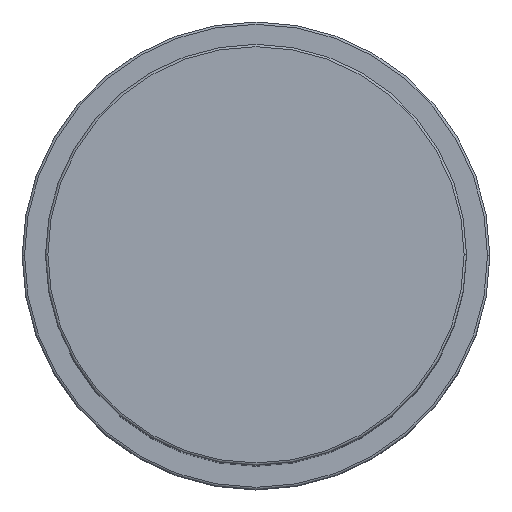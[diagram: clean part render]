
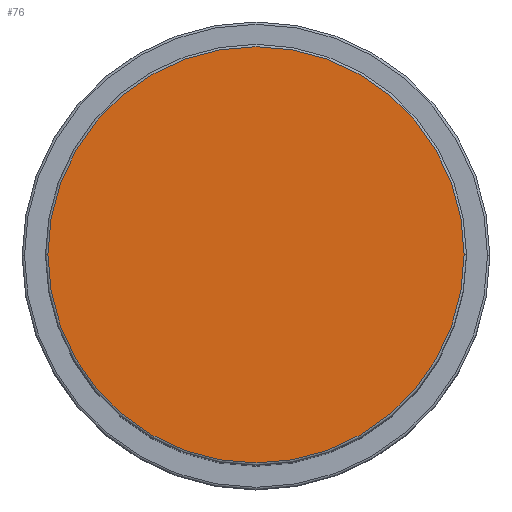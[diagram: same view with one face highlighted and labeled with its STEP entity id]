
A CAD part, top view. The second image highlights one B-rep face of the part: STEP entity #76.
In plain terms, the highlighted planar face has unit normal (0, 0, 1).
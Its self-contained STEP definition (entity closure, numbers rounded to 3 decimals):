
#33 = CARTESIAN_POINT ( 'NONE',  ( 44.5, 0., 144. ) ) ;
#76 = ADVANCED_FACE ( 'NONE', ( #719 ), #1403, .T. ) ;
#95 = CIRCLE ( 'NONE', #1611, 44.5 ) ;
#150 = DIRECTION ( 'NONE',  ( 0., 0., 1. ) ) ;
#221 = CIRCLE ( 'NONE', #444, 44.5 ) ;
#414 = EDGE_CURVE ( 'NONE', #1659, #1525, #95, .T. ) ;
#425 = CARTESIAN_POINT ( 'NONE',  ( 0., 0., 144. ) ) ;
#444 = AXIS2_PLACEMENT_3D ( 'NONE', #1220, #790, #936 ) ;
#719 = FACE_OUTER_BOUND ( 'NONE', #925, .T. ) ;
#790 = DIRECTION ( 'NONE',  ( 0., 0., 1. ) ) ;
#838 = CARTESIAN_POINT ( 'NONE',  ( 0., 0., 144. ) ) ;
#853 = DIRECTION ( 'NONE',  ( 0., 0., 1. ) ) ;
#879 = AXIS2_PLACEMENT_3D ( 'NONE', #838, #853, #1705 ) ;
#925 = EDGE_LOOP ( 'NONE', ( #1532, #1387 ) ) ;
#936 = DIRECTION ( 'NONE',  ( 1., 0., 0. ) ) ;
#1159 = CARTESIAN_POINT ( 'NONE',  ( -44.5, 0., 144. ) ) ;
#1220 = CARTESIAN_POINT ( 'NONE',  ( 0., 0., 144. ) ) ;
#1302 = EDGE_CURVE ( 'NONE', #1525, #1659, #221, .T. ) ;
#1387 = ORIENTED_EDGE ( 'NONE', *, *, #414, .T. ) ;
#1403 = PLANE ( 'NONE',  #879 ) ;
#1416 = DIRECTION ( 'NONE',  ( 1., 0., 0. ) ) ;
#1525 = VERTEX_POINT ( 'NONE', #33 ) ;
#1532 = ORIENTED_EDGE ( 'NONE', *, *, #1302, .T. ) ;
#1611 = AXIS2_PLACEMENT_3D ( 'NONE', #425, #150, #1416 ) ;
#1659 = VERTEX_POINT ( 'NONE', #1159 ) ;
#1705 = DIRECTION ( 'NONE',  ( 1., 0., 0. ) ) ;
